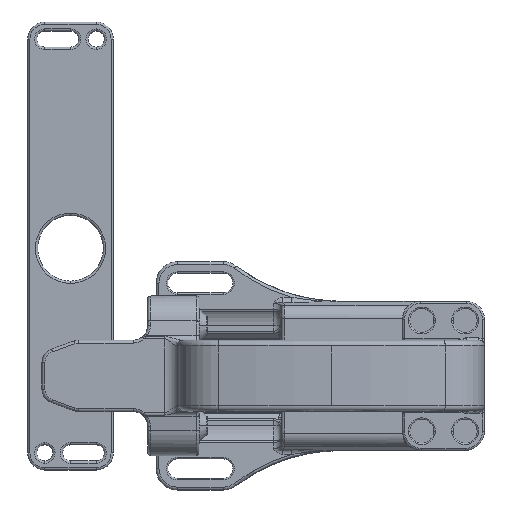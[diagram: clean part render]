
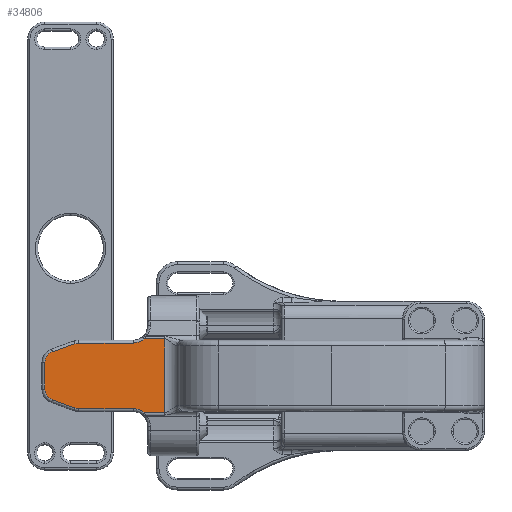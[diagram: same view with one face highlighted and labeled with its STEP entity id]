
A CAD part, front view. The second image highlights one B-rep face of the part: STEP entity #34806.
In plain terms, the highlighted planar face has unit normal (0, -1, 0) as drawn and (0, 0, -1) by its records, which use the part's own axes.
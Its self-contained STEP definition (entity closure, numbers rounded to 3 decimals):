
#118 = CARTESIAN_POINT ( 'NONE',  ( 100.5, 12.5, -28. ) ) ;
#1047 = VECTOR ( 'NONE', #35669, 1000. ) ;
#1226 = VERTEX_POINT ( 'NONE', #1620 ) ;
#1228 = ORIENTED_EDGE ( 'NONE', *, *, #19871, .T. ) ;
#1283 = ORIENTED_EDGE ( 'NONE', *, *, #18842, .T. ) ;
#1613 = DIRECTION ( 'NONE',  ( 0., 0., -1. ) ) ;
#1620 = CARTESIAN_POINT ( 'NONE',  ( 69.5, 11.5, -28. ) ) ;
#2832 = DIRECTION ( 'NONE',  ( 1., 0., 0. ) ) ;
#3151 = DIRECTION ( 'NONE',  ( 0., -1., 0. ) ) ;
#3827 = VERTEX_POINT ( 'NONE', #8585 ) ;
#4502 = EDGE_CURVE ( 'NONE', #31471, #9683, #10373, .T. ) ;
#4968 = CARTESIAN_POINT ( 'NONE',  ( 88.618, -11.5, -28. ) ) ;
#5927 = DIRECTION ( 'NONE',  ( -0.94, -0.342, 0. ) ) ;
#6818 = PLANE ( 'NONE',  #35796 ) ;
#6832 = VERTEX_POINT ( 'NONE', #35444 ) ;
#6837 = VECTOR ( 'NONE', #3151, 1000. ) ;
#6868 = EDGE_CURVE ( 'NONE', #6832, #26078, #42241, .T. ) ;
#7297 = ORIENTED_EDGE ( 'NONE', *, *, #22999, .T. ) ;
#7493 = VERTEX_POINT ( 'NONE', #26852 ) ;
#7514 = FACE_OUTER_BOUND ( 'NONE', #8403, .T. ) ;
#7515 = ORIENTED_EDGE ( 'NONE', *, *, #16903, .T. ) ;
#8041 = EDGE_CURVE ( 'NONE', #31234, #1226, #46085, .T. ) ;
#8403 = EDGE_LOOP ( 'NONE', ( #25931, #1228, #1283, #9329, #23069, #25037, #7515, #24182, #35398, #7297, #38065, #13285, #40286, #33895 ) ) ;
#8585 = CARTESIAN_POINT ( 'NONE',  ( 97.868, -8.39, -28. ) ) ;
#8785 = VECTOR ( 'NONE', #2832, 1000. ) ;
#9329 = ORIENTED_EDGE ( 'NONE', *, *, #37121, .T. ) ;
#9683 = VERTEX_POINT ( 'NONE', #37208 ) ;
#10373 = LINE ( 'NONE', #118, #6837 ) ;
#10451 = DIRECTION ( 'NONE',  ( 1., 0., 0. ) ) ;
#11107 = CARTESIAN_POINT ( 'NONE',  ( 88.618, 7.5, -28. ) ) ;
#11557 = LINE ( 'NONE', #39406, #1047 ) ;
#11930 = CARTESIAN_POINT ( 'NONE',  ( 97.868, 8.39, -28. ) ) ;
#12345 = DIRECTION ( 'NONE',  ( 0.94, -0.342, 0. ) ) ;
#12446 = AXIS2_PLACEMENT_3D ( 'NONE', #22977, #15745, #33763 ) ;
#12754 = VECTOR ( 'NONE', #16531, 1000. ) ;
#12979 = EDGE_CURVE ( 'NONE', #17459, #31234, #30577, .T. ) ;
#13285 = ORIENTED_EDGE ( 'NONE', *, *, #39944, .T. ) ;
#13466 = LINE ( 'NONE', #27682, #45044 ) ;
#13789 = EDGE_CURVE ( 'NONE', #3827, #33966, #24307, .T. ) ;
#14049 = CIRCLE ( 'NONE', #33481, 4. ) ;
#14077 = DIRECTION ( 'NONE',  ( 0., 1., 0. ) ) ;
#14392 = DIRECTION ( 'NONE',  ( 0., 0., -1. ) ) ;
#14873 = DIRECTION ( 'NONE',  ( 1., 0., 0. ) ) ;
#15745 = DIRECTION ( 'NONE',  ( 0., 0., 1. ) ) ;
#16025 = CARTESIAN_POINT ( 'NONE',  ( 69.5, -17.5, -28. ) ) ;
#16531 = DIRECTION ( 'NONE',  ( 1., 0., 0. ) ) ;
#16903 = EDGE_CURVE ( 'NONE', #1226, #6832, #23073, .T. ) ;
#17339 = LINE ( 'NONE', #30872, #26896 ) ;
#17459 = VERTEX_POINT ( 'NONE', #22679 ) ;
#17993 = DIRECTION ( 'NONE',  ( 0., 0., 1. ) ) ;
#18136 = CARTESIAN_POINT ( 'NONE',  ( 58.446, -12.953, -28. ) ) ;
#18162 = CARTESIAN_POINT ( 'NONE',  ( 89.986, 11.259, -28. ) ) ;
#18212 = CIRCLE ( 'NONE', #24915, 6. ) ;
#18613 = CARTESIAN_POINT ( 'NONE',  ( 69.5, -11.5, -28. ) ) ;
#18842 = EDGE_CURVE ( 'NONE', #7493, #39952, #11557, .T. ) ;
#19157 = VERTEX_POINT ( 'NONE', #11930 ) ;
#19270 = VECTOR ( 'NONE', #5927, 1000. ) ;
#19609 = CARTESIAN_POINT ( 'NONE',  ( 101.5, 12.953, -28. ) ) ;
#19871 = EDGE_CURVE ( 'NONE', #24474, #7493, #18212, .T. ) ;
#20094 = AXIS2_PLACEMENT_3D ( 'NONE', #23274, #1613, #34298 ) ;
#21264 = DIRECTION ( 'NONE',  ( 1., 0., 0. ) ) ;
#22679 = CARTESIAN_POINT ( 'NONE',  ( 58.446, 12.953, -28. ) ) ;
#22788 = CARTESIAN_POINT ( 'NONE',  ( 89.986, -11.259, -28. ) ) ;
#22977 = CARTESIAN_POINT ( 'NONE',  ( 69.5, 17.5, -28. ) ) ;
#22999 = EDGE_CURVE ( 'NONE', #19157, #31471, #14049, .T. ) ;
#23069 = ORIENTED_EDGE ( 'NONE', *, *, #12979, .T. ) ;
#23073 = LINE ( 'NONE', #37358, #12754 ) ;
#23274 = CARTESIAN_POINT ( 'NONE',  ( 88.618, -7.5, -28. ) ) ;
#24074 = CARTESIAN_POINT ( 'NONE',  ( 107.789, -4.779, -28. ) ) ;
#24182 = ORIENTED_EDGE ( 'NONE', *, *, #6868, .T. ) ;
#24210 = VERTEX_POINT ( 'NONE', #4968 ) ;
#24307 = LINE ( 'NONE', #24074, #19270 ) ;
#24474 = VERTEX_POINT ( 'NONE', #18613 ) ;
#24915 = AXIS2_PLACEMENT_3D ( 'NONE', #16025, #38242, #38008 ) ;
#25037 = ORIENTED_EDGE ( 'NONE', *, *, #8041, .T. ) ;
#25349 = DIRECTION ( 'NONE',  ( 0., 0., -1. ) ) ;
#25931 = ORIENTED_EDGE ( 'NONE', *, *, #28477, .T. ) ;
#26078 = VERTEX_POINT ( 'NONE', #18162 ) ;
#26258 = AXIS2_PLACEMENT_3D ( 'NONE', #32875, #25349, #14873 ) ;
#26852 = CARTESIAN_POINT ( 'NONE',  ( 65.585, -12.953, -28. ) ) ;
#26896 = VECTOR ( 'NONE', #14077, 1000. ) ;
#27251 = LINE ( 'NONE', #30085, #28203 ) ;
#27472 = CARTESIAN_POINT ( 'NONE',  ( 96.5, 4.631, -28. ) ) ;
#27682 = CARTESIAN_POINT ( 'NONE',  ( 101.5, -11.5, -28. ) ) ;
#28203 = VECTOR ( 'NONE', #12345, 1000. ) ;
#28477 = EDGE_CURVE ( 'NONE', #24210, #24474, #13466, .T. ) ;
#30085 = CARTESIAN_POINT ( 'NONE',  ( 99.754, 7.704, -28. ) ) ;
#30577 = LINE ( 'NONE', #19609, #8785 ) ;
#30872 = CARTESIAN_POINT ( 'NONE',  ( 58.446, 12.5, -28. ) ) ;
#31234 = VERTEX_POINT ( 'NONE', #35258 ) ;
#31235 = DIRECTION ( 'NONE',  ( 0., 0., -1. ) ) ;
#31471 = VERTEX_POINT ( 'NONE', #36180 ) ;
#32546 = EDGE_CURVE ( 'NONE', #26078, #19157, #27251, .T. ) ;
#32875 = CARTESIAN_POINT ( 'NONE',  ( 96.5, -4.631, -28. ) ) ;
#33481 = AXIS2_PLACEMENT_3D ( 'NONE', #27472, #31235, #10451 ) ;
#33763 = DIRECTION ( 'NONE',  ( 1., 0., 0. ) ) ;
#33895 = ORIENTED_EDGE ( 'NONE', *, *, #35236, .T. ) ;
#33966 = VERTEX_POINT ( 'NONE', #22788 ) ;
#34298 = DIRECTION ( 'NONE',  ( 1., 0., 0. ) ) ;
#34556 = CIRCLE ( 'NONE', #26258, 4. ) ;
#34806 = ADVANCED_FACE ( 'NONE', ( #7514 ), #6818, .F. ) ;
#35236 = EDGE_CURVE ( 'NONE', #33966, #24210, #37269, .T. ) ;
#35258 = CARTESIAN_POINT ( 'NONE',  ( 65.585, 12.953, -28. ) ) ;
#35398 = ORIENTED_EDGE ( 'NONE', *, *, #32546, .T. ) ;
#35444 = CARTESIAN_POINT ( 'NONE',  ( 88.618, 11.5, -28. ) ) ;
#35669 = DIRECTION ( 'NONE',  ( -1., 0., 0. ) ) ;
#35796 = AXIS2_PLACEMENT_3D ( 'NONE', #42568, #17993, #21264 ) ;
#36180 = CARTESIAN_POINT ( 'NONE',  ( 100.5, 4.631, -28. ) ) ;
#37121 = EDGE_CURVE ( 'NONE', #39952, #17459, #17339, .T. ) ;
#37208 = CARTESIAN_POINT ( 'NONE',  ( 100.5, -4.631, -28. ) ) ;
#37269 = CIRCLE ( 'NONE', #20094, 4. ) ;
#37358 = CARTESIAN_POINT ( 'NONE',  ( 88.618, 11.5, -28. ) ) ;
#38008 = DIRECTION ( 'NONE',  ( 1., 0., 0. ) ) ;
#38065 = ORIENTED_EDGE ( 'NONE', *, *, #4502, .T. ) ;
#38242 = DIRECTION ( 'NONE',  ( 0., 0., 1. ) ) ;
#38737 = DIRECTION ( 'NONE',  ( -1., 0., 0. ) ) ;
#39406 = CARTESIAN_POINT ( 'NONE',  ( 101.5, -12.953, -28. ) ) ;
#39944 = EDGE_CURVE ( 'NONE', #9683, #3827, #34556, .T. ) ;
#39952 = VERTEX_POINT ( 'NONE', #18136 ) ;
#40286 = ORIENTED_EDGE ( 'NONE', *, *, #13789, .T. ) ;
#42241 = CIRCLE ( 'NONE', #45229, 4. ) ;
#42568 = CARTESIAN_POINT ( 'NONE',  ( 101.5, 12.5, -28. ) ) ;
#45044 = VECTOR ( 'NONE', #38737, 1000. ) ;
#45229 = AXIS2_PLACEMENT_3D ( 'NONE', #11107, #14392, #46189 ) ;
#46085 = CIRCLE ( 'NONE', #12446, 6. ) ;
#46189 = DIRECTION ( 'NONE',  ( 1., 0., 0. ) ) ;
